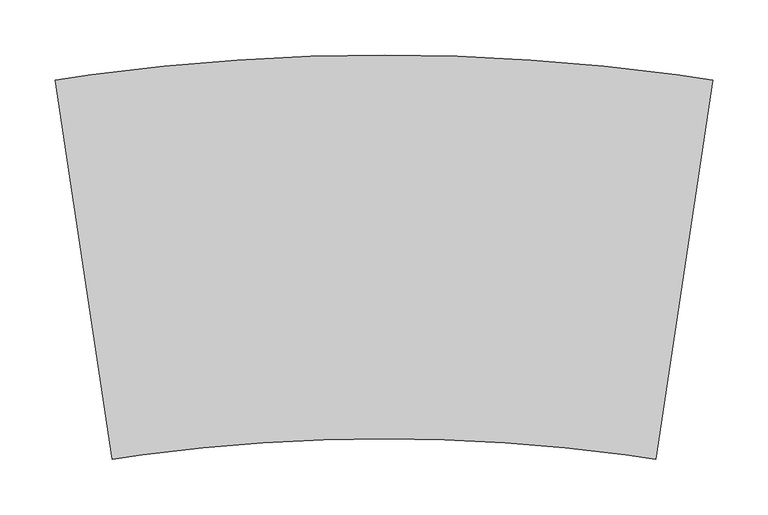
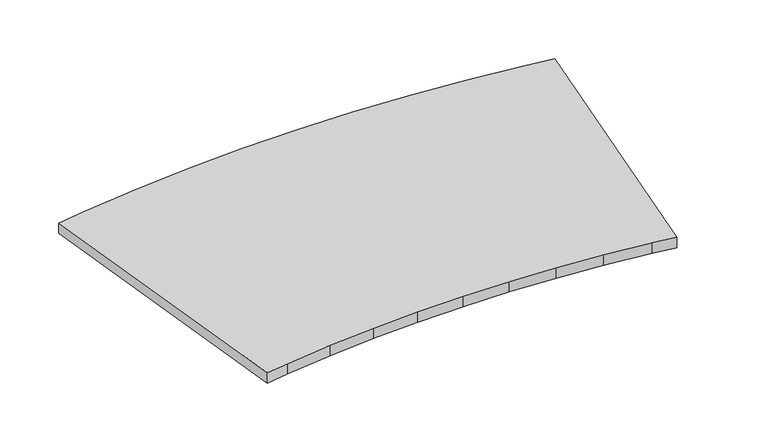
"""IFC4 building model written with IfcOpenShell, lengths in millimetres: proxy geometry, TECHNO_Решетка_R : РАП_Алюминиевая продольная/Белый RAL 9016."""

import ifcopenshell
import ifcopenshell.guid

model = None  # the IFC model being written
_history = None  # IfcOwnerHistory: only IFC2X3 demands one
_inside = {}  # id of a spatial element -> (the spatial element, [elements in it])
_under = {}  # id of a project, library or spatial element -> (it, [spatial elements below it])
_declared = {}  # id of a project -> (the project, [libraries it declares])
_typed = {}  # id of a type object -> (the type object, [elements of that type])
_made_of = {}  # id of a material, layer set ... -> (it, [elements and type objects made of it])


def new_model(schema):
    """Start an empty IFC model of exactly this schema.

    Asked for "IFC4X3", IfcOpenShell would pick the latest addendum, in which some entities
    have other attributes; the version numbers below select the first issue.
    IFC2X3 requires an IfcOwnerHistory on every rooted entity: one is made here for all.
    """
    global model, _history
    if schema == "IFC4X3":
        model = ifcopenshell.file(schema_version=(4, 3, 0, 0))
    else:
        model = ifcopenshell.file(schema=schema)
    _inside.clear()
    _under.clear()
    _declared.clear()
    _typed.clear()
    _made_of.clear()
    _history = None
    if model.schema == "IFC2X3":
        org = make("IfcOrganization", Name="unknown")
        user = make(
            "IfcPersonAndOrganization",
            ThePerson=make("IfcPerson", FamilyName="unknown"),
            TheOrganization=org,
        )
        app = make(
            "IfcApplication",
            ApplicationDeveloper=org,
            Version="unknown",
            ApplicationFullName="unknown",
            ApplicationIdentifier="unknown",
        )
        _history = make(
            "IfcOwnerHistory",
            OwningUser=user,
            OwningApplication=app,
            ChangeAction="ADDED",
            CreationDate=0,
        )
    return model


def make(cls, **values):
    """One entity of the class cls with the attributes given. An attribute that is None is left unset."""
    return model.create_entity(
        cls, **{name: value for name, value in values.items() if value is not None}
    )


def rooted(cls, **values):
    """An entity with a GlobalId (a new one), such as an element, a storey or a relation."""
    return make(cls, GlobalId=ifcopenshell.guid.new(), OwnerHistory=_history, **values)


def si_unit(unit_type, name, prefix=None):
    """IfcSIUnit, for example si_unit("LENGTHUNIT", "METRE", prefix="MILLI")."""
    return make("IfcSIUnit", UnitType=unit_type, Prefix=prefix, Name=name)


def assignment(units):
    """IfcUnitAssignment: the units of a project."""
    return None if units is None else make("IfcUnitAssignment", Units=units)


def point(xyz):
    """IfcCartesianPoint."""
    return None if xyz is None else make("IfcCartesianPoint", Coordinates=xyz)


def direction(xyz):
    """IfcDirection."""
    return None if xyz is None else make("IfcDirection", DirectionRatios=xyz)


def frame(location, z_axis=None, x_axis=None):
    """IfcAxis2Placement3D, a coordinate frame: its origin and axes. An axis left out is left unset."""
    return make(
        "IfcAxis2Placement3D",
        Location=point(location),
        Axis=direction(z_axis),
        RefDirection=direction(x_axis),
    )


def origin():
    """The frame at (0, 0, 0) with its axes left unset."""
    return frame((0.0, 0.0, 0.0))


def place(relative_to, where):
    """IfcLocalPlacement: puts the frame where relative to a parent placement (None: the world)."""
    return make(
        "IfcLocalPlacement", PlacementRelTo=relative_to, RelativePlacement=where
    )


def context(
    kind, dimensions, precision=None, world=None, true_north=None, identifier=None
):
    """IfcGeometricRepresentationContext, for example the 3D "Model" context."""
    return make(
        "IfcGeometricRepresentationContext",
        ContextIdentifier=identifier,
        ContextType=kind,
        CoordinateSpaceDimension=dimensions,
        Precision=precision,
        WorldCoordinateSystem=world,
        TrueNorth=true_north,
    )


def project(units=None, contexts=None):
    """IfcProject with its units and contexts."""
    return rooted(
        "IfcProject",
        Name="project",
        RepresentationContexts=contexts,
        UnitsInContext=assignment(units),
    )


def spatial(cls, under=None, at=None, **own):
    """A site, building, storey or space (cls), placed at a placement, below another one or the project."""
    s = rooted(cls, ObjectPlacement=at, **own)
    if under is not None:
        _under.setdefault(under.id(), (under, []))[1].append(s)
    return s


def polyline(points):
    """IfcPolyline through the points."""
    return make("IfcPolyline", Points=[point(p) for p in points])


def outline(outer, holes=None, kind="AREA"):
    """IfcArbitraryClosedProfileDef: a profile drawn as a closed curve; with holes, ...WithVoids."""
    if holes is None:
        return make("IfcArbitraryClosedProfileDef", ProfileType=kind, OuterCurve=outer)
    return make(
        "IfcArbitraryProfileDefWithVoids",
        ProfileType=kind,
        OuterCurve=outer,
        InnerCurves=holes,
    )


def extrude(swept, where, along, depth):
    """IfcExtrudedAreaSolid: the profile swept, set in the frame where, extruded along a direction by depth."""
    return make(
        "IfcExtrudedAreaSolid",
        SweptArea=swept,
        Position=where,
        ExtrudedDirection=direction(along),
        Depth=depth,
    )


def shape(context_of_items, identifier, shape_type, items):
    """IfcShapeRepresentation: the items that make up one representation, for example the "Body"."""
    return make(
        "IfcShapeRepresentation",
        ContextOfItems=context_of_items,
        RepresentationIdentifier=identifier,
        RepresentationType=shape_type,
        Items=items,
    )


def source(mapping_origin, context_of_items, identifier, shape_type, items):
    """IfcRepresentationMap: a shape defined once, which mapped items show again and again."""
    return make(
        "IfcRepresentationMap",
        MappingOrigin=mapping_origin,
        MappedRepresentation=shape(context_of_items, identifier, shape_type, items),
    )


def transform(
    local_origin,
    x_axis=None,
    y_axis=None,
    z_axis=None,
    scale=None,
    scale2=None,
    scale3=None,
    uniform=True,
):
    """IfcCartesianTransformationOperator3D, or its non-uniform kind. x_axis, y_axis, z_axis: its Axis1, 2, 3."""
    if uniform:
        return make(
            "IfcCartesianTransformationOperator3D",
            Axis1=direction(x_axis),
            Axis2=direction(y_axis),
            LocalOrigin=point(local_origin),
            Scale=scale,
            Axis3=direction(z_axis),
        )
    return make(
        "IfcCartesianTransformationOperator3DnonUniform",
        Axis1=direction(x_axis),
        Axis2=direction(y_axis),
        LocalOrigin=point(local_origin),
        Scale=scale,
        Axis3=direction(z_axis),
        Scale2=scale2,
        Scale3=scale3,
    )


def mapped(mapping_source, mapping_target):
    """IfcMappedItem: shows the shape of a source again, moved by a transform."""
    return make(
        "IfcMappedItem", MappingSource=mapping_source, MappingTarget=mapping_target
    )


def made_of(thing, what):
    """Note that an element or type object is made of a material, layer set ...; save() writes the relation."""
    if what is not None:
        _made_of.setdefault(what.id(), (what, []))[1].append(thing)
    return thing


def element(
    cls,
    number,
    at=None,
    inside=None,
    cuts=None,
    type_object=None,
    material=None,
    context=None,
    identifier="Body",
    shape_type=None,
    held_by="IfcProductDefinitionShape",
    body=None,
    shapes=None,
    **own,
):
    """One element of the class cls, such as IfcWall. Its Tag is "e" and its number.

    at: its placement. inside: the storey or other place that contains it. cuts: it is an
    opening in that element (IfcRelVoidsElement). A single representation is given by context,
    identifier, shape_type and body (its items); several are given by shapes. held_by: the class
    of the entity that holds the representations. save() writes the other relations.
    """
    e = rooted(cls, Tag="e%d" % number, ObjectPlacement=at, **own)
    if body is not None:
        shapes = [shape(context, identifier, shape_type, body)]
    if shapes is not None:
        e.Representation = make(held_by, Representations=shapes)
    if inside is not None:
        _inside.setdefault(inside.id(), (inside, []))[1].append(e)
    if cuts is not None:
        rooted(
            "IfcRelVoidsElement", RelatingBuildingElement=cuts, RelatedOpeningElement=e
        )
    if type_object is not None:
        _typed.setdefault(type_object.id(), (type_object, []))[1].append(e)
    return made_of(e, material)


def aggregate(whole, parts):
    """IfcRelAggregates: a whole, such as a stair, and the parts it consists of."""
    return rooted("IfcRelAggregates", RelatingObject=whole, RelatedObjects=parts)


def save(model, path):
    """Write the relations noted so far, then the file.

    IfcRelAggregates (storeys below a building ...), IfcRelContainedInSpatialStructure (elements
    in a storey), IfcRelDefinesByType, IfcRelAssociatesMaterial and IfcRelDeclares: one each for
    every whole, place, type object, material and project.
    """
    for whole, parts in _under.values():
        aggregate(whole, parts)
    for where, things in _inside.values():
        rooted(
            "IfcRelContainedInSpatialStructure",
            RelatedElements=things,
            RelatingStructure=where,
        )
    for kind, things in _typed.values():
        rooted("IfcRelDefinesByType", RelatedObjects=things, RelatingType=kind)
    for what, things in _made_of.values():
        rooted("IfcRelAssociatesMaterial", RelatedObjects=things, RelatingMaterial=what)
    for by, libraries in _declared.values():
        rooted("IfcRelDeclares", RelatingContext=by, RelatedDefinitions=libraries)
    model.write(path)


def mechanical_equipment_9deb7235(model_context):
    return source(origin(), model_context, "Body", "SweptSolid", [
        extrude(outline(polyline([(297.5110721, 151.534493), (245.7726047, -192.1934387), (218.6655259, -188.1132386), (164.2103684, -181.7569149), (109.5742284, -177.2116731), (54.8173223, -174.4825227), (0.0, -173.5724715), (-54.8173223, -174.4825227), (-109.5742284, -177.2116731), (-164.2103684, -181.7569149), (-218.6655259, -188.1132386), (-245.7726047, -192.1934387), (-297.5110721, 151.534493), (-264.6975854, 156.4736305), (-198.7788786, 164.1680465), (-132.6410899, 169.6701234), (-66.3571123, 172.973797), (0.0, 174.0754263), (66.3571123, 172.973797), (132.6410899, 169.6701234), (198.7788786, 164.1680465), (264.6975854, 156.4736305), (297.5110721, 151.534493)])), frame((0.0, 0.0, -13.0), z_axis=(0.0, 0.0, 1.0), x_axis=(1.0, 0.0, 0.0)), (0.0, 0.0, 1.0), 13.0),
    ])


if __name__ == "__main__":
    model = new_model("IFC4")
    model_context = context("Model", 3, world=origin())
    ifc_project = project(units=[si_unit("LENGTHUNIT", "METRE", prefix="MILLI")], contexts=[model_context])
    site = spatial("IfcSite", under=ifc_project)
    building = spatial("IfcBuilding", under=site)
    placement = place(None, origin())
    mechanical_equipment_shape = mechanical_equipment_9deb7235(model_context)
    element("IfcBuildingElementProxy", 1, Name="TECHNO_Решетка_R : РАП_Алюминиевая продольная/Белый RAL 9016", ObjectType="TECHNO_Решетка_R : РАП_Алюминиевая продольная/Белый RAL 9016", at=placement, inside=building, context=model_context, shape_type="MappedRepresentation", body=[
        mapped(mechanical_equipment_shape, transform((0.0, 0.0, 0.0), x_axis=(1.0, 0.0, 0.0), y_axis=(0.0, 1.0, 0.0), z_axis=(0.0, 0.0, 1.0))),
    ])
    save(model, "model.ifc")
